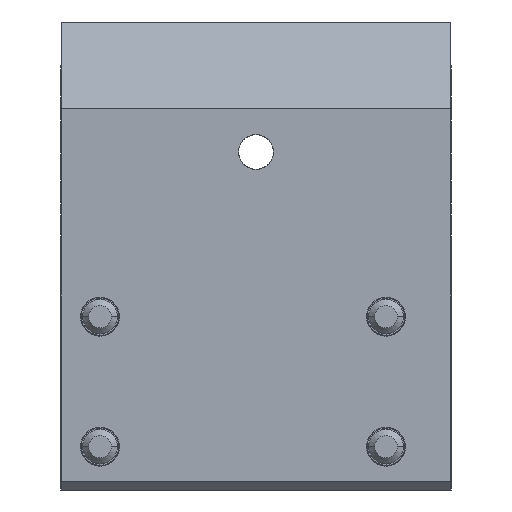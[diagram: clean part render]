
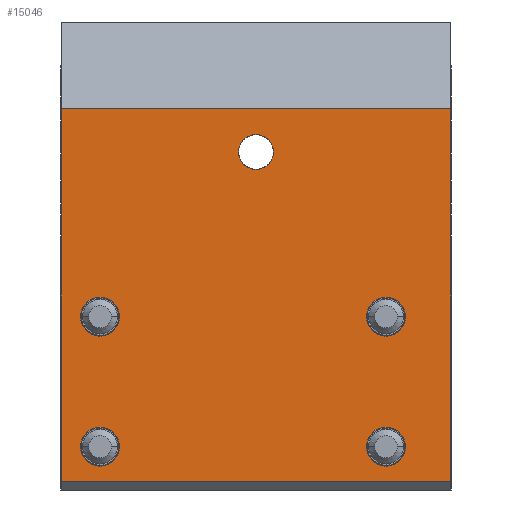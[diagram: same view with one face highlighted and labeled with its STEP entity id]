
A CAD part, front view. The second image highlights one B-rep face of the part: STEP entity #15046.
In plain terms, the highlighted planar face has unit normal (0, -1, 0).
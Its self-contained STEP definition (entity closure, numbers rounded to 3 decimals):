
#735 = DIRECTION ( 'NONE',  ( 0., 0., 1. ) ) ;
#912 = AXIS2_PLACEMENT_3D ( 'NONE', #37237, #16829, #40658 ) ;
#1777 = DIRECTION ( 'NONE',  ( 0., -1., 0. ) ) ;
#1840 = EDGE_CURVE ( 'NONE', #8222, #28551, #35708, .T. ) ;
#2330 = CARTESIAN_POINT ( 'NONE',  ( -90.97, -2.846, -9.25 ) ) ;
#2780 = EDGE_LOOP ( 'NONE', ( #6496, #24855 ) ) ;
#3637 = VERTEX_POINT ( 'NONE', #6713 ) ;
#3965 = EDGE_CURVE ( 'NONE', #21626, #26592, #39710, .T. ) ;
#5771 = CARTESIAN_POINT ( 'NONE',  ( -57.97, -2.846, -22. ) ) ;
#5879 = DIRECTION ( 'NONE',  ( 0., -1., 0. ) ) ;
#5969 = ORIENTED_EDGE ( 'NONE', *, *, #21899, .F. ) ;
#6496 = ORIENTED_EDGE ( 'NONE', *, *, #19146, .F. ) ;
#6662 = CARTESIAN_POINT ( 'NONE',  ( -72.97, -2.846, 12. ) ) ;
#6713 = CARTESIAN_POINT ( 'NONE',  ( -95.47, -2.846, 17. ) ) ;
#6852 = CARTESIAN_POINT ( 'NONE',  ( -72.97, -2.846, 12. ) ) ;
#7136 = EDGE_LOOP ( 'NONE', ( #21099, #32308 ) ) ;
#7253 = VECTOR ( 'NONE', #34225, 1000. ) ;
#7424 = DIRECTION ( 'NONE',  ( 0., -1., 0. ) ) ;
#7706 = AXIS2_PLACEMENT_3D ( 'NONE', #40085, #19780, #43577 ) ;
#7769 = FACE_BOUND ( 'NONE', #7136, .T. ) ;
#8163 = CARTESIAN_POINT ( 'NONE',  ( -72.97, -2.846, -26. ) ) ;
#8222 = VERTEX_POINT ( 'NONE', #31203 ) ;
#8349 = LINE ( 'NONE', #44518, #7253 ) ;
#9029 = DIRECTION ( 'NONE',  ( 0., 0., 1. ) ) ;
#9173 = CARTESIAN_POINT ( 'NONE',  ( -72.97, -2.846, 17. ) ) ;
#10121 = DIRECTION ( 'NONE',  ( 0., 0., 1. ) ) ;
#10264 = EDGE_CURVE ( 'NONE', #33944, #31426, #36907, .T. ) ;
#10334 = DIRECTION ( 'NONE',  ( 0., 0., 1. ) ) ;
#10696 = VECTOR ( 'NONE', #32205, 1000. ) ;
#10821 = ORIENTED_EDGE ( 'NONE', *, *, #1840, .F. ) ;
#11051 = VECTOR ( 'NONE', #36295, 1000. ) ;
#11058 = CIRCLE ( 'NONE', #34232, 2. ) ;
#11154 = DIRECTION ( 'NONE',  ( 0., 1., 0. ) ) ;
#11340 = CARTESIAN_POINT ( 'NONE',  ( -50.47, -2.846, -26. ) ) ;
#11475 = EDGE_LOOP ( 'NONE', ( #5969, #34398 ) ) ;
#12107 = EDGE_CURVE ( 'NONE', #27621, #19494, #37203, .T. ) ;
#12302 = CARTESIAN_POINT ( 'NONE',  ( -57.97, -2.846, -9.25 ) ) ;
#12619 = AXIS2_PLACEMENT_3D ( 'NONE', #28107, #7424, #31504 ) ;
#12866 = CARTESIAN_POINT ( 'NONE',  ( -90.97, -2.846, -22. ) ) ;
#13120 = CARTESIAN_POINT ( 'NONE',  ( -57.97, -2.846, -4.75 ) ) ;
#13524 = ORIENTED_EDGE ( 'NONE', *, *, #12107, .F. ) ;
#14671 = ORIENTED_EDGE ( 'NONE', *, *, #17366, .F. ) ;
#14711 = EDGE_CURVE ( 'NONE', #3637, #31426, #38322, .T. ) ;
#14971 = EDGE_CURVE ( 'NONE', #32524, #33944, #8349, .T. ) ;
#15046 = ADVANCED_FACE ( 'NONE', ( #17039, #35149, #18128, #7769, #43157, #34098 ), #28176, .F. ) ;
#15249 = CARTESIAN_POINT ( 'NONE',  ( -90.97, -2.846, -4.75 ) ) ;
#16374 = DIRECTION ( 'NONE',  ( 0., 0., 1. ) ) ;
#16790 = DIRECTION ( 'NONE',  ( 0., -1., 0. ) ) ;
#16829 = DIRECTION ( 'NONE',  ( 0., -1., 0. ) ) ;
#17039 = FACE_BOUND ( 'NONE', #33403, .T. ) ;
#17366 = EDGE_CURVE ( 'NONE', #3637, #32524, #35376, .T. ) ;
#17653 = CIRCLE ( 'NONE', #41044, 2.25 ) ;
#17887 = ORIENTED_EDGE ( 'NONE', *, *, #17990, .F. ) ;
#17990 = EDGE_CURVE ( 'NONE', #28551, #8222, #41206, .T. ) ;
#18128 = FACE_BOUND ( 'NONE', #19649, .T. ) ;
#18524 = EDGE_CURVE ( 'NONE', #26592, #21626, #17653, .T. ) ;
#19146 = EDGE_CURVE ( 'NONE', #38747, #25368, #32997, .T. ) ;
#19151 = AXIS2_PLACEMENT_3D ( 'NONE', #25768, #43064, #735 ) ;
#19201 = VERTEX_POINT ( 'NONE', #44374 ) ;
#19269 = CARTESIAN_POINT ( 'NONE',  ( -95.47, -2.846, 0. ) ) ;
#19494 = VERTEX_POINT ( 'NONE', #15249 ) ;
#19649 = EDGE_LOOP ( 'NONE', ( #17887, #10821 ) ) ;
#19780 = DIRECTION ( 'NONE',  ( 0., -1., 0. ) ) ;
#19840 = CARTESIAN_POINT ( 'NONE',  ( -50.47, -2.846, 17. ) ) ;
#20568 = ORIENTED_EDGE ( 'NONE', *, *, #24436, .F. ) ;
#21099 = ORIENTED_EDGE ( 'NONE', *, *, #3965, .F. ) ;
#21626 = VERTEX_POINT ( 'NONE', #32696 ) ;
#21665 = ORIENTED_EDGE ( 'NONE', *, *, #14971, .F. ) ;
#21705 = AXIS2_PLACEMENT_3D ( 'NONE', #37205, #16790, #40626 ) ;
#21899 = EDGE_CURVE ( 'NONE', #38704, #19201, #37331, .T. ) ;
#22251 = AXIS2_PLACEMENT_3D ( 'NONE', #31708, #11154, #35094 ) ;
#22271 = AXIS2_PLACEMENT_3D ( 'NONE', #22516, #1777, #25947 ) ;
#22516 = CARTESIAN_POINT ( 'NONE',  ( -90.97, -2.846, -7. ) ) ;
#23859 = ORIENTED_EDGE ( 'NONE', *, *, #14711, .T. ) ;
#24436 = EDGE_CURVE ( 'NONE', #19494, #27621, #29231, .T. ) ;
#24855 = ORIENTED_EDGE ( 'NONE', *, *, #40044, .F. ) ;
#25368 = VERTEX_POINT ( 'NONE', #12302 ) ;
#25768 = CARTESIAN_POINT ( 'NONE',  ( -90.97, -2.846, -22. ) ) ;
#25947 = DIRECTION ( 'NONE',  ( 0., 0., 1. ) ) ;
#26072 = EDGE_LOOP ( 'NONE', ( #37592, #21665, #14671, #23859 ) ) ;
#26388 = VECTOR ( 'NONE', #39996, 1000. ) ;
#26592 = VERTEX_POINT ( 'NONE', #37193 ) ;
#27621 = VERTEX_POINT ( 'NONE', #2330 ) ;
#28107 = CARTESIAN_POINT ( 'NONE',  ( -57.97, -2.846, -7. ) ) ;
#28176 = PLANE ( 'NONE',  #22251 ) ;
#28551 = VERTEX_POINT ( 'NONE', #36756 ) ;
#28897 = CIRCLE ( 'NONE', #12619, 2.25 ) ;
#29231 = CIRCLE ( 'NONE', #22271, 2.25 ) ;
#30715 = DIRECTION ( 'NONE',  ( 0., -1., 0. ) ) ;
#30913 = DIRECTION ( 'NONE',  ( 0., -1., 0. ) ) ;
#31203 = CARTESIAN_POINT ( 'NONE',  ( -57.97, -2.846, -24.25 ) ) ;
#31426 = VERTEX_POINT ( 'NONE', #35866 ) ;
#31504 = DIRECTION ( 'NONE',  ( 0., 0., 1. ) ) ;
#31708 = CARTESIAN_POINT ( 'NONE',  ( -95.47, -2.846, -26. ) ) ;
#32205 = DIRECTION ( 'NONE',  ( -1., 0., 0. ) ) ;
#32308 = ORIENTED_EDGE ( 'NONE', *, *, #18524, .F. ) ;
#32524 = VERTEX_POINT ( 'NONE', #19840 ) ;
#32595 = EDGE_CURVE ( 'NONE', #19201, #38704, #11058, .T. ) ;
#32696 = CARTESIAN_POINT ( 'NONE',  ( -90.97, -2.846, -19.75 ) ) ;
#32997 = CIRCLE ( 'NONE', #21705, 2.25 ) ;
#33403 = EDGE_LOOP ( 'NONE', ( #20568, #13524 ) ) ;
#33944 = VERTEX_POINT ( 'NONE', #11340 ) ;
#34098 = FACE_OUTER_BOUND ( 'NONE', #26072, .T. ) ;
#34225 = DIRECTION ( 'NONE',  ( 0., 0., -1. ) ) ;
#34232 = AXIS2_PLACEMENT_3D ( 'NONE', #6662, #30715, #10121 ) ;
#34398 = ORIENTED_EDGE ( 'NONE', *, *, #32595, .F. ) ;
#35094 = DIRECTION ( 'NONE',  ( 0., 0., 1. ) ) ;
#35149 = FACE_BOUND ( 'NONE', #2780, .T. ) ;
#35376 = LINE ( 'NONE', #9173, #26388 ) ;
#35708 = CIRCLE ( 'NONE', #37934, 2.25 ) ;
#35789 = AXIS2_PLACEMENT_3D ( 'NONE', #6852, #30913, #10334 ) ;
#35866 = CARTESIAN_POINT ( 'NONE',  ( -95.47, -2.846, -26. ) ) ;
#36295 = DIRECTION ( 'NONE',  ( 0., 0., -1. ) ) ;
#36566 = CARTESIAN_POINT ( 'NONE',  ( -72.97, -2.846, 14. ) ) ;
#36756 = CARTESIAN_POINT ( 'NONE',  ( -57.97, -2.846, -19.75 ) ) ;
#36773 = DIRECTION ( 'NONE',  ( 0., -1., 0. ) ) ;
#36907 = LINE ( 'NONE', #8163, #10696 ) ;
#37193 = CARTESIAN_POINT ( 'NONE',  ( -90.97, -2.846, -24.25 ) ) ;
#37203 = CIRCLE ( 'NONE', #912, 2.25 ) ;
#37205 = CARTESIAN_POINT ( 'NONE',  ( -57.97, -2.846, -7. ) ) ;
#37237 = CARTESIAN_POINT ( 'NONE',  ( -90.97, -2.846, -7. ) ) ;
#37331 = CIRCLE ( 'NONE', #35789, 2. ) ;
#37592 = ORIENTED_EDGE ( 'NONE', *, *, #10264, .F. ) ;
#37934 = AXIS2_PLACEMENT_3D ( 'NONE', #5771, #5879, #9029 ) ;
#38322 = LINE ( 'NONE', #19269, #11051 ) ;
#38704 = VERTEX_POINT ( 'NONE', #36566 ) ;
#38747 = VERTEX_POINT ( 'NONE', #13120 ) ;
#39710 = CIRCLE ( 'NONE', #19151, 2.25 ) ;
#39996 = DIRECTION ( 'NONE',  ( 1., 0., 0. ) ) ;
#40044 = EDGE_CURVE ( 'NONE', #25368, #38747, #28897, .T. ) ;
#40085 = CARTESIAN_POINT ( 'NONE',  ( -57.97, -2.846, -22. ) ) ;
#40626 = DIRECTION ( 'NONE',  ( 0., 0., 1. ) ) ;
#40658 = DIRECTION ( 'NONE',  ( 0., 0., 1. ) ) ;
#41044 = AXIS2_PLACEMENT_3D ( 'NONE', #12866, #36773, #16374 ) ;
#41206 = CIRCLE ( 'NONE', #7706, 2.25 ) ;
#43064 = DIRECTION ( 'NONE',  ( 0., -1., 0. ) ) ;
#43157 = FACE_BOUND ( 'NONE', #11475, .T. ) ;
#43577 = DIRECTION ( 'NONE',  ( 0., 0., 1. ) ) ;
#44374 = CARTESIAN_POINT ( 'NONE',  ( -72.97, -2.846, 10. ) ) ;
#44518 = CARTESIAN_POINT ( 'NONE',  ( -50.47, -2.846, -4.5 ) ) ;
